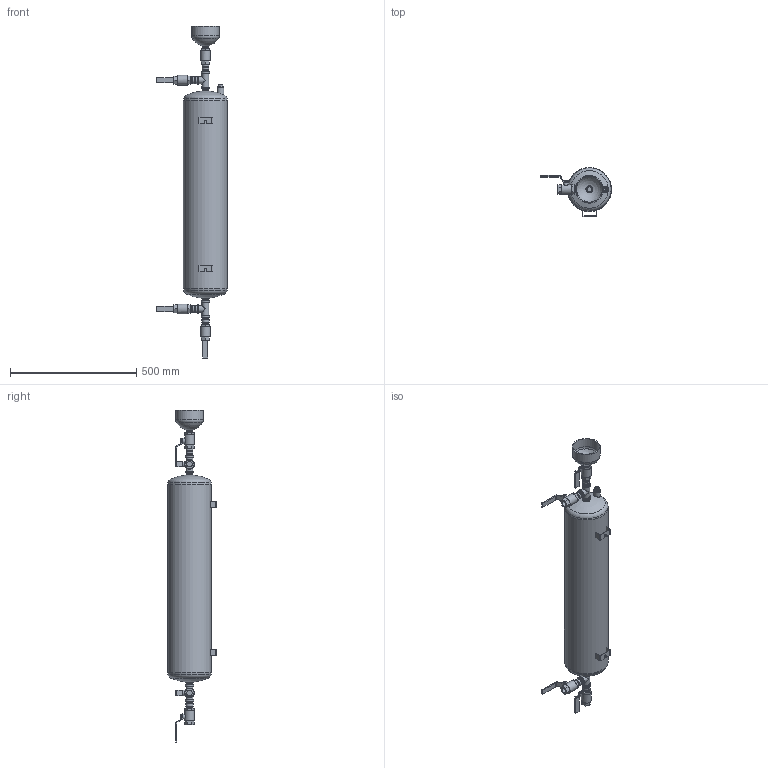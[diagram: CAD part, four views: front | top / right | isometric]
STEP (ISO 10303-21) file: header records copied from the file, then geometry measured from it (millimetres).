
FILE_DESCRIPTION(/* description */ (''),/* implementation_level */ '2;1');
FILE_NAME(/* name */ '\\DATASERVER\data\Flamco\3D-Modellen\Inventor\Dosing Pot\2021\2021 Dosing Pot 18 L\2021_Dosing Pot 18L.stp',/* time_stamp */ '2021-02-17T11:05:59+01:00',/* author */ ('kasius'),/* organization */ (''),/* preprocessor_version */ 'ST-DEVELOPER v17',/* originating_system */ 'Autodesk Inventor 2018',/* authorisation */ '');
FILE_SCHEMA (('AUTOMOTIVE_DESIGN { 1 0 10303 214 3 1 1 }'));
Length unit declared in the file: millimetre
Products named in the file (1): 2021_Dosing Pot 18L
Bounding box: 280.3 x 193.41 x 1316.27 mm (x, y, z)
Volume: 19543403 mm3; surface area: 636957.1 mm2
Topology: 1 solids, 1 shells, 311 faces, 797 edges, 545 vertices
Faces by surface type: plane 223, cylinder 65, cone 14, torus 5, sphere 4
Full cylindrical faces by diameter (mm): 9.8 x1, 15.875 x8, 19 x1, 19.3 x1, 21.514 x4, 21.749 x3, 23.8 x1, 25.8 x3, 26 x3, 26.5 x1, 26.753 x2, 26.754 x6, 27 x3, 27.2 x4, 29.941 x1, 32.64 x6, 38.495 x4, 106 x1, 110 x1, 174 x1
Entity records: 9887 total; most frequent: CARTESIAN_POINT 1856, DIRECTION 1723, ORIENTED_EDGE 1594, EDGE_CURVE 797, AXIS2_PLACEMENT_3D 624, VERTEX_POINT 545, LINE 475, VECTOR 475
